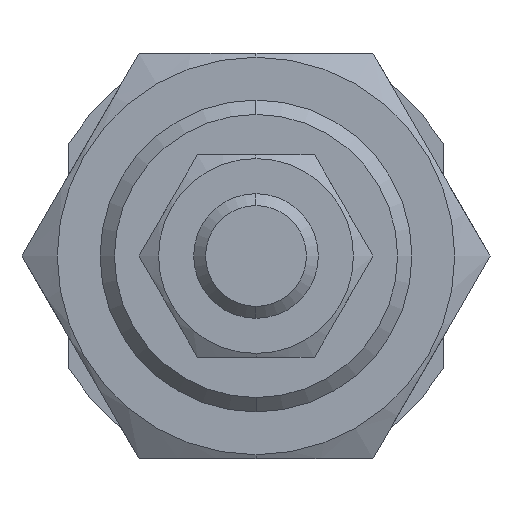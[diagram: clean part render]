
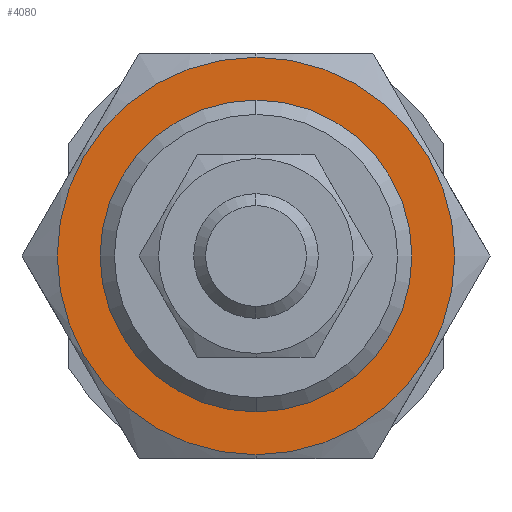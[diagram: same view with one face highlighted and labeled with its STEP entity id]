
A CAD part, left-side view. The second image highlights one B-rep face of the part: STEP entity #4080.
In plain terms, the highlighted planar face has unit normal (-1, 0, 0).
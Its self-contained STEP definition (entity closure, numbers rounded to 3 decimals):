
#115 = AXIS2_PLACEMENT_3D ( 'NONE', #143, #3066, #966 ) ;
#143 = CARTESIAN_POINT ( 'NONE',  ( -11., 0., 0. ) ) ;
#550 = DIRECTION ( 'NONE',  ( 0., 0., -1. ) ) ;
#761 = EDGE_CURVE ( 'NONE', #2163, #2745, #4872, .T. ) ;
#767 = CIRCLE ( 'NONE', #2343, 10. ) ;
#828 = CARTESIAN_POINT ( 'NONE',  ( -11., 0., 0. ) ) ;
#966 = DIRECTION ( 'NONE',  ( 0., 0., -1. ) ) ;
#1162 = DIRECTION ( 'NONE',  ( 0., 1., 0. ) ) ;
#1472 = CARTESIAN_POINT ( 'NONE',  ( -11., 0., -12.75 ) ) ;
#1663 = DIRECTION ( 'NONE',  ( 1., 0., 0. ) ) ;
#2163 = VERTEX_POINT ( 'NONE', #1472 ) ;
#2343 = AXIS2_PLACEMENT_3D ( 'NONE', #5439, #5361, #3729 ) ;
#2471 = FACE_OUTER_BOUND ( 'NONE', #3008, .T. ) ;
#2648 = CARTESIAN_POINT ( 'NONE',  ( -11., 0., 0. ) ) ;
#2661 = ORIENTED_EDGE ( 'NONE', *, *, #761, .F. ) ;
#2743 = AXIS2_PLACEMENT_3D ( 'NONE', #2648, #4328, #550 ) ;
#2745 = VERTEX_POINT ( 'NONE', #4370 ) ;
#2852 = FACE_BOUND ( 'NONE', #4536, .T. ) ;
#2921 = AXIS2_PLACEMENT_3D ( 'NONE', #828, #4507, #1162 ) ;
#3008 = EDGE_LOOP ( 'NONE', ( #2661, #3194 ) ) ;
#3009 = CIRCLE ( 'NONE', #2743, 12.75 ) ;
#3066 = DIRECTION ( 'NONE',  ( 1., 0., 0. ) ) ;
#3194 = ORIENTED_EDGE ( 'NONE', *, *, #3744, .F. ) ;
#3376 = EDGE_CURVE ( 'NONE', #4553, #5266, #767, .T. ) ;
#3687 = AXIS2_PLACEMENT_3D ( 'NONE', #4184, #1663, #3800 ) ;
#3729 = DIRECTION ( 'NONE',  ( 0., 0., -1. ) ) ;
#3744 = EDGE_CURVE ( 'NONE', #2745, #2163, #3009, .T. ) ;
#3800 = DIRECTION ( 'NONE',  ( 0., 0., -1. ) ) ;
#4040 = CARTESIAN_POINT ( 'NONE',  ( -11., 0., -10. ) ) ;
#4080 = ADVANCED_FACE ( 'NONE', ( #2471, #2852 ), #4620, .F. ) ;
#4184 = CARTESIAN_POINT ( 'NONE',  ( -11., 0., 0. ) ) ;
#4227 = CARTESIAN_POINT ( 'NONE',  ( -11., 0., 10. ) ) ;
#4328 = DIRECTION ( 'NONE',  ( 1., 0., 0. ) ) ;
#4370 = CARTESIAN_POINT ( 'NONE',  ( -11., 0., 12.75 ) ) ;
#4507 = DIRECTION ( 'NONE',  ( 1., 0., 0. ) ) ;
#4536 = EDGE_LOOP ( 'NONE', ( #5422, #4688 ) ) ;
#4553 = VERTEX_POINT ( 'NONE', #4227 ) ;
#4620 = PLANE ( 'NONE',  #2921 ) ;
#4688 = ORIENTED_EDGE ( 'NONE', *, *, #4901, .T. ) ;
#4872 = CIRCLE ( 'NONE', #115, 12.75 ) ;
#4901 = EDGE_CURVE ( 'NONE', #5266, #4553, #5365, .T. ) ;
#5266 = VERTEX_POINT ( 'NONE', #4040 ) ;
#5361 = DIRECTION ( 'NONE',  ( 1., 0., 0. ) ) ;
#5365 = CIRCLE ( 'NONE', #3687, 10. ) ;
#5422 = ORIENTED_EDGE ( 'NONE', *, *, #3376, .T. ) ;
#5439 = CARTESIAN_POINT ( 'NONE',  ( -11., 0., 0. ) ) ;
